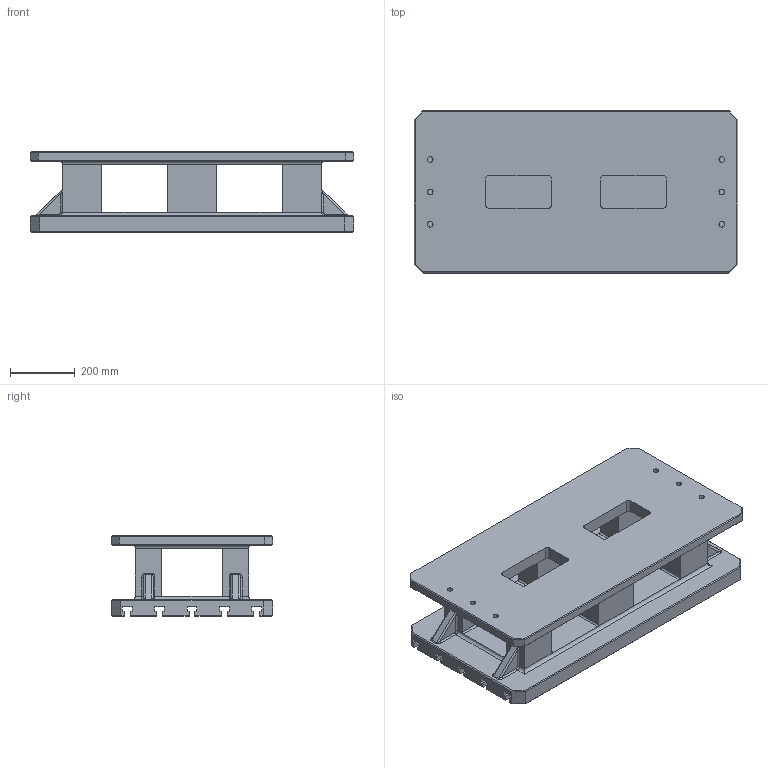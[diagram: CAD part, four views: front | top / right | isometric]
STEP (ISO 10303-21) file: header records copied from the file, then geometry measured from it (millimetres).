
FILE_DESCRIPTION((''),'2;1');
FILE_NAME('FG_WH_RISTL_TSL18NP005','2026-05-24T11:02:16',('Admin'),(''),'CREO PARAMETRIC BY PTC INC, 2025010','CREO PARAMETRIC BY PTC INC, 2025010','');
FILE_SCHEMA(('CONFIG_CONTROL_DESIGN'));
Length unit declared in the file: millimetre
Products named in the file (1): FG_WH_RISTL_TSL18NP005
Bounding box: 1000 x 500 x 250 mm (x, y, z)
Volume: 50929075.4 mm3; surface area: 2888324.4 mm2
Topology: 1 solids, 1 shells, 282 faces, 718 edges, 436 vertices
Faces by surface type: plane 154, cylinder 104, bspline 24
Entity records: 9894 total; most frequent: CARTESIAN_POINT 3138, ORIENTED_EDGE 1436, DIRECTION 1330, EDGE_CURVE 718, VECTOR 510, LINE 510, VERTEX_POINT 436, AXIS2_PLACEMENT_3D 410
